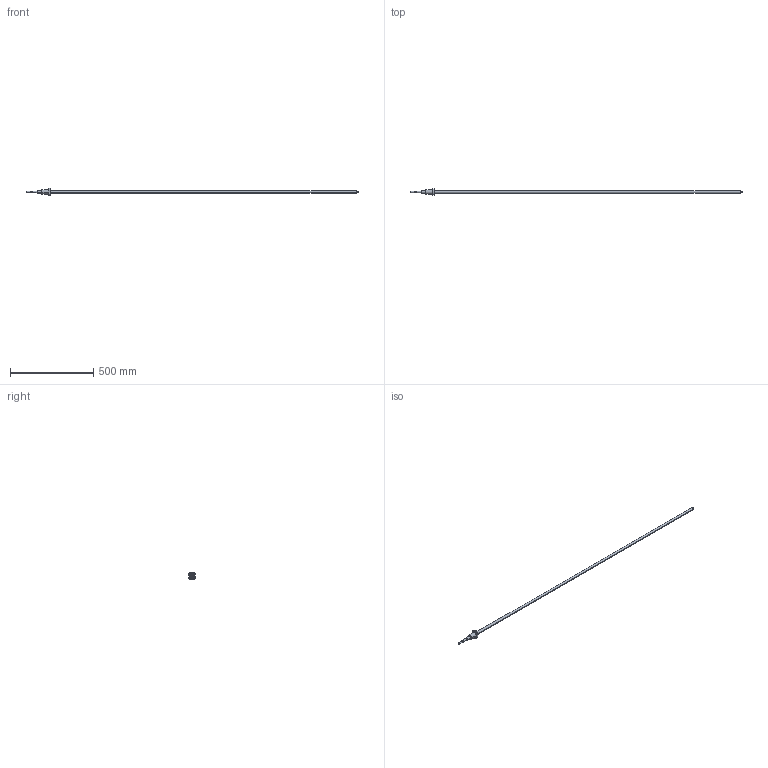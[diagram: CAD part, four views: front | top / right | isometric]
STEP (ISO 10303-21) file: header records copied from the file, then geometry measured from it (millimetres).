
FILE_DESCRIPTION (( 'STEP AP214' ), '1' );
FILE_NAME ('2.2110 SFU1605-2000mm.STEP', '2025-09-19T08:02:40', ( '' ), ( '' ), 'SwSTEP 2.0', 'SolidWorks 2025', '' );
FILE_SCHEMA (( 'AUTOMOTIVE_DESIGN' ));
Length unit declared in the file: millimetre
Products named in the file (3): 2.2110 SFU1605-2000mm; 2.3012 Kuularuuvimutteri SFU1605-4
Assembly tree (2 placements, depth 2):
  2.2110 SFU1605-2000mm
    2.2110 SFU1605-2000mm
    2.3012 Kuularuuvimutteri SFU1605-4
Bounding box: 2000 x 40 x 48 mm (x, y, z)
Volume: 412631.5 mm3; surface area: 111048 mm2
Topology: 3 solids, 3 shells, 103 faces, 258 edges, 168 vertices
Faces by surface type: cylinder 65, plane 20, cone 9, bspline 9
Entity records: 5767 total; most frequent: CARTESIAN_POINT 3259, ORIENTED_EDGE 516, DIRECTION 463, EDGE_CURVE 258, AXIS2_PLACEMENT_3D 184, VERTEX_POINT 168, EDGE_LOOP 126, ADVANCED_FACE 103
